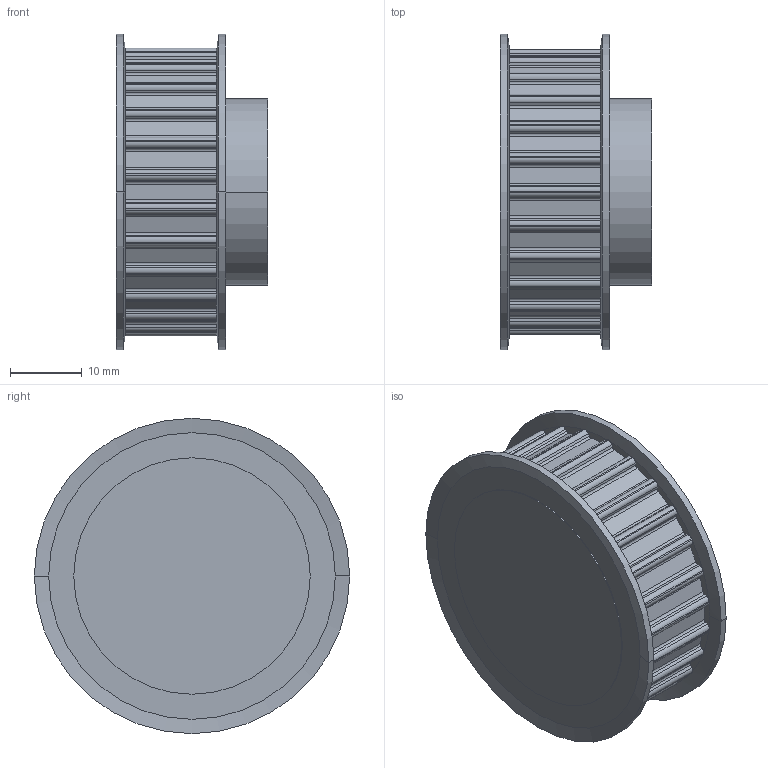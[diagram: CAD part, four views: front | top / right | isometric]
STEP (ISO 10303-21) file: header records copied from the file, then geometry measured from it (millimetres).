
FILE_DESCRIPTION( ( '' ), '1' );
FILE_NAME( 'C:/Users/Stangenbergd/Documents/CAD_Step/1/16622600.stp', '2021-10-19T09:34:11', ( '' ), ( '' ), ' ', ' ', ' ' );
FILE_SCHEMA( ( 'CONFIG_CONTROL_DESIGN' ) );
Length unit declared in the file: millimetre
Products named in the file (1): 1
Bounding box: 21.13 x 44 x 44 mm (x, y, z)
Volume: 21414.6 mm3; surface area: 6449.2 mm2
Topology: 1 solids, 1 shells, 335 faces, 878 edges, 548 vertices
Faces by surface type: plane 187, cylinder 140, cone 8
Entity records: 10476 total; most frequent: DIRECTION 2046, CARTESIAN_POINT 1762, ORIENTED_EDGE 1756, EDGE_CURVE 878, AXIS2_PLACEMENT_3D 832, VERTEX_POINT 548, CIRCLE 496, LINE 382
